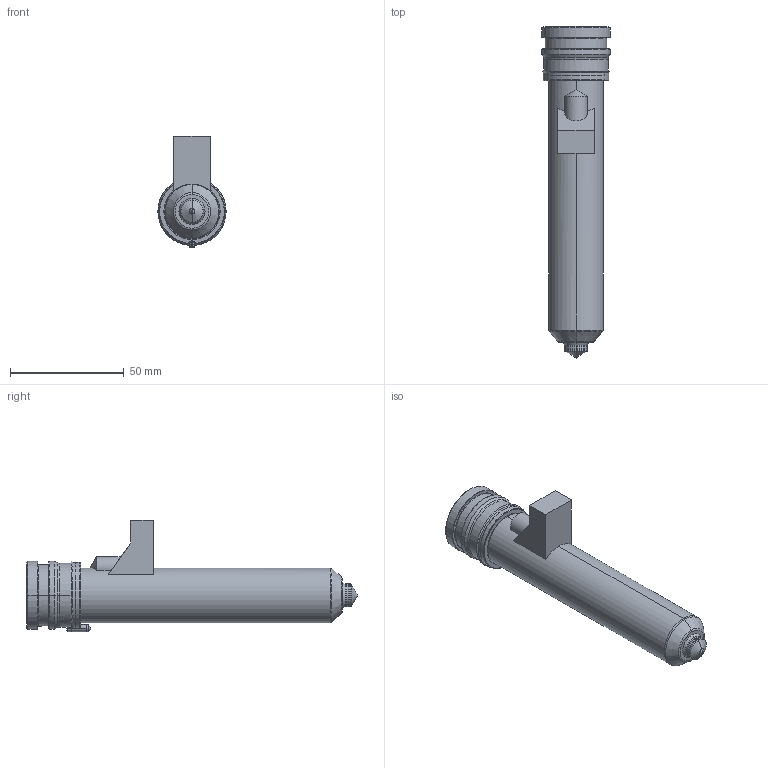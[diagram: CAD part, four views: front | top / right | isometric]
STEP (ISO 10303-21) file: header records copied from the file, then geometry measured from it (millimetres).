
FILE_DESCRIPTION((''),'2;1');
FILE_NAME('MPN-10-29-TS10-126-M','2026-02-05T12:49:33',('UPTIO'),('Thermoplay S.p.A.'),'CREO PARAMETRIC BY PTC INC, 2023494','CREO PARAMETRIC BY PTC INC, 2023494','');
FILE_SCHEMA(('CONFIG_CONTROL_DESIGN','SHAPE_APPEARANCE_LAYERS_GROUPS'));
Length unit declared in the file: millimetre
Products named in the file (1): MPN-10-29-TS10-126-M
Bounding box: 30 x 146 x 49 mm (x, y, z)
Volume: 46135.7 mm3; surface area: 47261.6 mm2
Topology: 3 solids, 5 shells, 542 faces, 1383 edges, 843 vertices
Faces by surface type: cylinder 177, plane 148, bspline 72, torus 67, cone 64, sphere 10, extrusion 4
Entity records: 26675 total; most frequent: CARTESIAN_POINT 10899, ORIENTED_EDGE 2748, DIRECTION 2578, EDGE_CURVE 1374, AXIS2_PLACEMENT_3D 1023, VERTEX_POINT 843, EDGE_LOOP 571, CIRCLE 556
